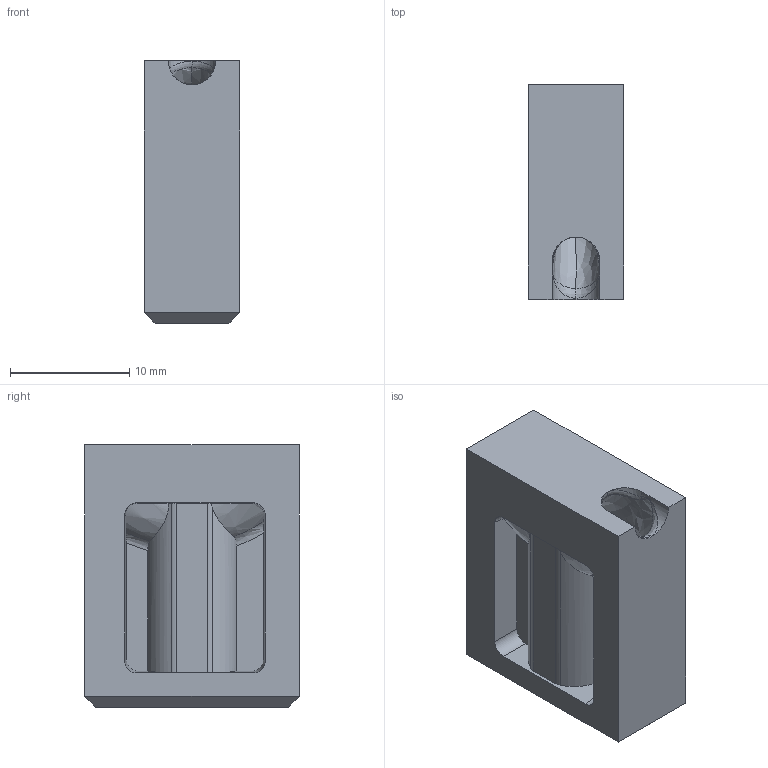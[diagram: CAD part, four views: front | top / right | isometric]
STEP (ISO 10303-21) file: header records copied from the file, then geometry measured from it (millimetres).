
FILE_DESCRIPTION((''),'2;1');
FILE_NAME('SGC1','2006-11-21T',('tmeister'),(''),'PRO/ENGINEER BY PARAMETRIC TECHNOLOGY CORPORATION, 2002390','PRO/ENGINEER BY PARAMETRIC TECHNOLOGY CORPORATION, 2002390','');
FILE_SCHEMA(('CONFIG_CONTROL_DESIGN'));
Length unit declared in the file: millimetre
Products named in the file (1): SGC1
Bounding box: 8 x 18 x 22 mm (x, y, z)
Volume: 2420.5 mm3; surface area: 2072.3 mm2
Topology: 1 solids, 2 shells, 75 faces, 200 edges, 130 vertices
Faces by surface type: plane 25, cylinder 22, bspline 18, cone 4, sphere 4, torus 2
Entity records: 4324 total; most frequent: CARTESIAN_POINT 2637, ORIENTED_EDGE 378, DIRECTION 264, EDGE_CURVE 191, VERTEX_POINT 122, AXIS2_PLACEMENT_3D 90, VECTOR 84, LINE 84
